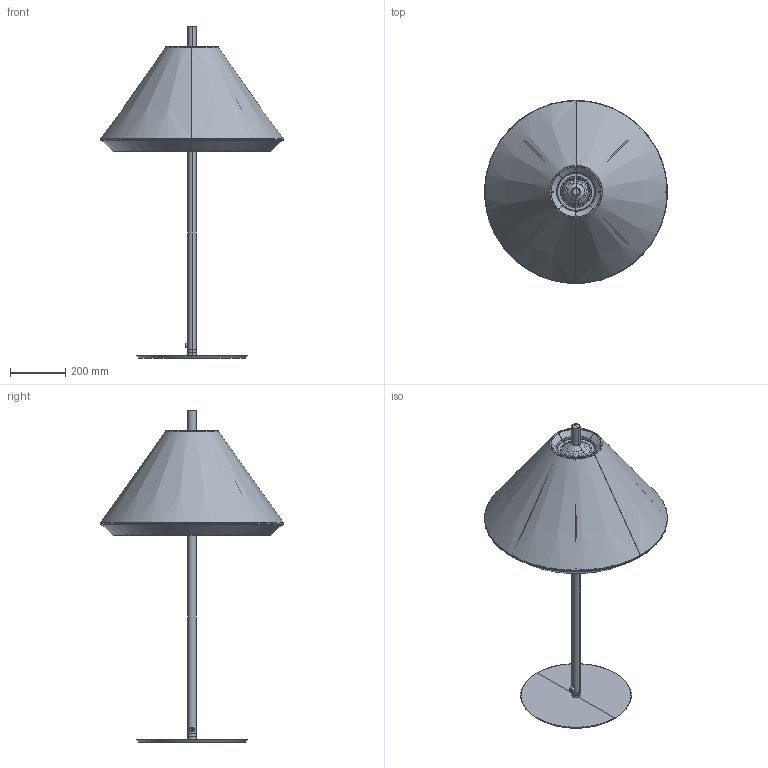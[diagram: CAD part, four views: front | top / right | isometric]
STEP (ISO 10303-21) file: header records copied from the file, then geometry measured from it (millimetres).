
FILE_DESCRIPTION(/* description */ (''),/* implementation_level */ '2;1');
FILE_NAME(/* name */ 'C:\Users\FrancoSartori\Documents\FARO\01_En Proceso\00_SAIGON\03_Publicación\71575-07.stp',/* time_stamp */ '2021-04-30T12:36:57+02:00',/* author */ ('FrancoSartori'),/* organization */ (''),/* preprocessor_version */ 'ST-DEVELOPER v18.1',/* originating_system */ 'AutoCAD Mechanical',/* authorisation */ '');
FILE_SCHEMA (('AUTOMOTIVE_DESIGN { 1 0 10303 214 3 1 1 }'));
Length unit declared in the file: millimetre
Products named in the file (4): Product; 71575 - HUE-471072-_3D_; T70-W70 - 71593  W70-471052-_3D_; 71577_HUE - base-474969-_3D_
Assembly tree (3 placements, depth 2):
  Product
    71575 - HUE-471072-_3D_
    T70-W70 - 71593  W70-471052-_3D_
    71577_HUE - base-474969-_3D_
Bounding box: 662.09 x 663.46 x 1202.46 mm (x, y, z)
Volume: 3425996.4 mm3; surface area: 3617638.9 mm2
Topology: 21 solids, 21 shells, 526 faces, 1190 edges, 692 vertices
Faces by surface type: cylinder 190, torus 140, cone 100, plane 88, bspline 8
Entity records: 26659 total; most frequent: CARTESIAN_POINT 15875, ORIENTED_EDGE 2380, DIRECTION 1932, EDGE_CURVE 1190, AXIS2_PLACEMENT_3D 791, VERTEX_POINT 692, B_SPLINE_CURVE_WITH_KNOTS 574, EDGE_LOOP 530
